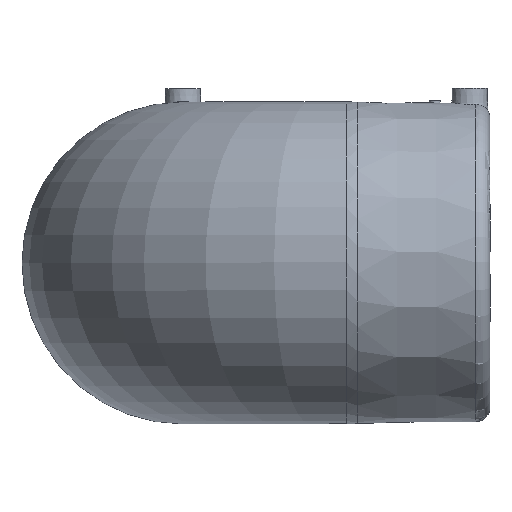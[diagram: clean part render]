
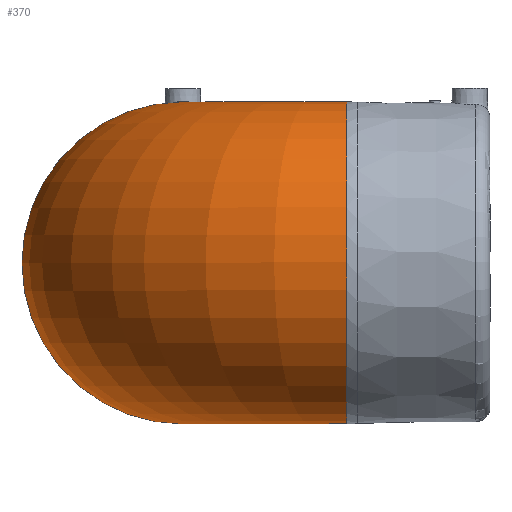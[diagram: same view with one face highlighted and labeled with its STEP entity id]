
A CAD part, top view. The second image highlights one B-rep face of the part: STEP entity #370.
In plain terms, the highlighted toroidal (fillet/blend) face has major radius 89 mm and minor radius 87.5 mm.
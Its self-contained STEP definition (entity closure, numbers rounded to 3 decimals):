
#47=TOROIDAL_SURFACE('',#428,89.,87.5);
#56=CIRCLE('',#418,87.5);
#58=CIRCLE('',#422,87.5);
#105=ORIENTED_EDGE('',*,*,#166,.F.);
#106=ORIENTED_EDGE('',*,*,#168,.T.);
#166=EDGE_CURVE('',#203,#203,#56,.F.);
#168=EDGE_CURVE('',#205,#205,#58,.F.);
#203=VERTEX_POINT('',#680);
#205=VERTEX_POINT('',#686);
#258=EDGE_LOOP('',(#105));
#259=EDGE_LOOP('',(#106));
#317=FACE_BOUND('',#258,.T.);
#318=FACE_BOUND('',#259,.T.);
#370=ADVANCED_FACE('',(#317,#318),#47,.T.);
#418=AXIS2_PLACEMENT_3D('',#679,#492,#493);
#422=AXIS2_PLACEMENT_3D('',#685,#500,#501);
#428=AXIS2_PLACEMENT_3D('',#720,#512,#513);
#492=DIRECTION('',(-1.,0.,0.));
#493=DIRECTION('',(0.,0.,-1.));
#500=DIRECTION('',(0.,0.,-1.));
#501=DIRECTION('',(1.,0.,0.));
#512=DIRECTION('',(0.,1.,0.));
#513=DIRECTION('',(0.,0.,1.));
#679=CARTESIAN_POINT('',(89.,0.,167.));
#680=CARTESIAN_POINT('',(89.,0.,79.5));
#685=CARTESIAN_POINT('',(0.,0.,78.));
#686=CARTESIAN_POINT('',(87.5,0.,78.));
#720=CARTESIAN_POINT('',(89.,0.,78.));
